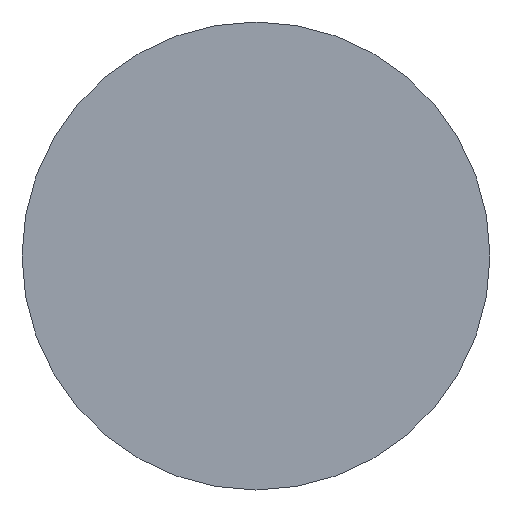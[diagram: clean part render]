
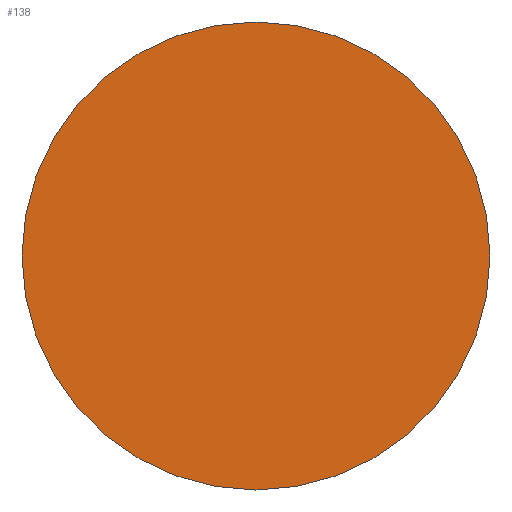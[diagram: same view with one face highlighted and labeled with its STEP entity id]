
A CAD part, left-side view. The second image highlights one B-rep face of the part: STEP entity #138.
In plain terms, the highlighted planar face has unit normal (-1, 0, 0).
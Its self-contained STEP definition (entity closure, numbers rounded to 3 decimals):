
#3 = CARTESIAN_POINT ( 'NONE',  ( -549.5, 0., -5.5 ) ) ;
#23 = DIRECTION ( 'NONE',  ( 0., 0., 1. ) ) ;
#24 = DIRECTION ( 'NONE',  ( -1., 0., 0. ) ) ;
#26 = PLANE ( 'NONE',  #127 ) ;
#27 = CARTESIAN_POINT ( 'NONE',  ( -549.5, 0., 0. ) ) ;
#37 = DIRECTION ( 'NONE',  ( 0., 0., 1. ) ) ;
#38 = DIRECTION ( 'NONE',  ( -1., 0., 0. ) ) ;
#40 = CARTESIAN_POINT ( 'NONE',  ( -549.5, 0., 0. ) ) ;
#43 = DIRECTION ( 'NONE',  ( 0., 0., 1. ) ) ;
#44 = DIRECTION ( 'NONE',  ( -1., 0., 0. ) ) ;
#46 = CARTESIAN_POINT ( 'NONE',  ( -549.5, 0., 0. ) ) ;
#58 = CARTESIAN_POINT ( 'NONE',  ( -549.5, 0., 5.5 ) ) ;
#59 = VERTEX_POINT ( 'NONE', #3 ) ;
#60 = VERTEX_POINT ( 'NONE', #58 ) ;
#81 = ORIENTED_EDGE ( 'NONE', *, *, #131, .T. ) ;
#83 = EDGE_LOOP ( 'NONE', ( #81, #93 ) ) ;
#93 = ORIENTED_EDGE ( 'NONE', *, *, #124, .T. ) ;
#101 = FACE_OUTER_BOUND ( 'NONE', #83, .T. ) ;
#104 = CIRCLE ( 'NONE', #117, 5.5 ) ;
#106 = CIRCLE ( 'NONE', #130, 5.5 ) ;
#117 = AXIS2_PLACEMENT_3D ( 'NONE', #40, #38, #37 ) ;
#124 = EDGE_CURVE ( 'NONE', #59, #60, #106, .T. ) ;
#127 = AXIS2_PLACEMENT_3D ( 'NONE', #27, #24, #23 ) ;
#130 = AXIS2_PLACEMENT_3D ( 'NONE', #46, #44, #43 ) ;
#131 = EDGE_CURVE ( 'NONE', #60, #59, #104, .T. ) ;
#138 = ADVANCED_FACE ( 'NONE', ( #101 ), #26, .T. ) ;
